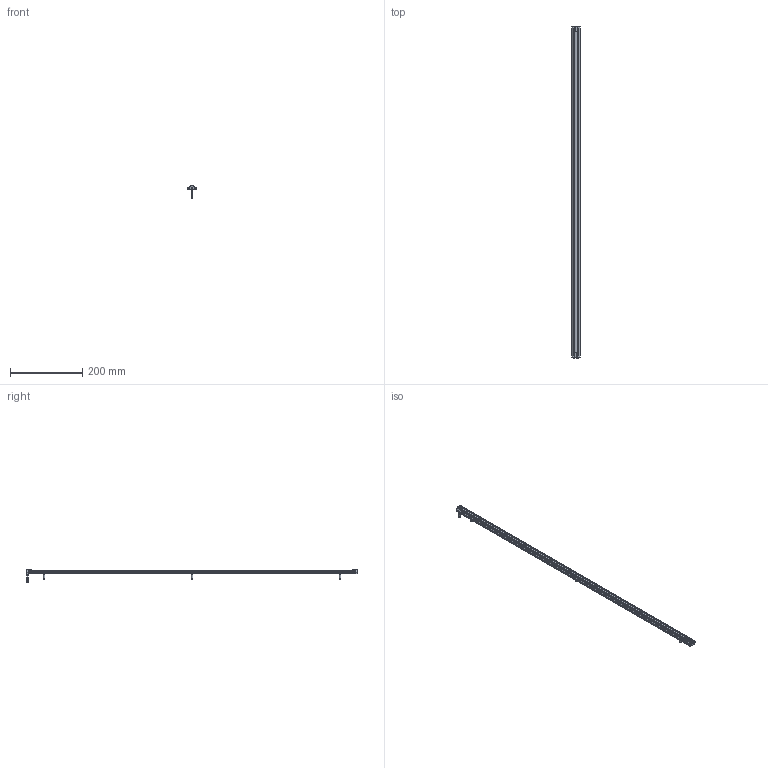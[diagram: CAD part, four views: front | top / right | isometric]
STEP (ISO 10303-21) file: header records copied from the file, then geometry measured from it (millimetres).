
FILE_DESCRIPTION (( 'STEP AP214' ), '1' );
FILE_NAME ('ILGA-B-K1a-0920mm.STEP', '2026-04-24T22:52:32', ( '' ), ( '' ), 'SwSTEP 2.0', 'SolidWorks 2025', '' );
FILE_SCHEMA (( 'AUTOMOTIVE_DESIGN' ));
Length unit declared in the file: millimetre
Products named in the file (1): ILGA-B-K1a-0920mm
Bounding box: 22.4 x 920 x 34.2 mm (x, y, z)
Volume: 71018.8 mm3; surface area: 125988.6 mm2
Topology: 12 solids, 12 shells, 719 faces, 1850 edges, 1132 vertices
Faces by surface type: plane 311, cylinder 266, cone 58, torus 44, bspline 24, sphere 16
Entity records: 30059 total; most frequent: CARTESIAN_POINT 4602, DIRECTION 3802, ORIENTED_EDGE 3612, EDGE_CURVE 1806, AXIS2_PLACEMENT_3D 1420, VERTEX_POINT 1132, LINE 962, VECTOR 962
